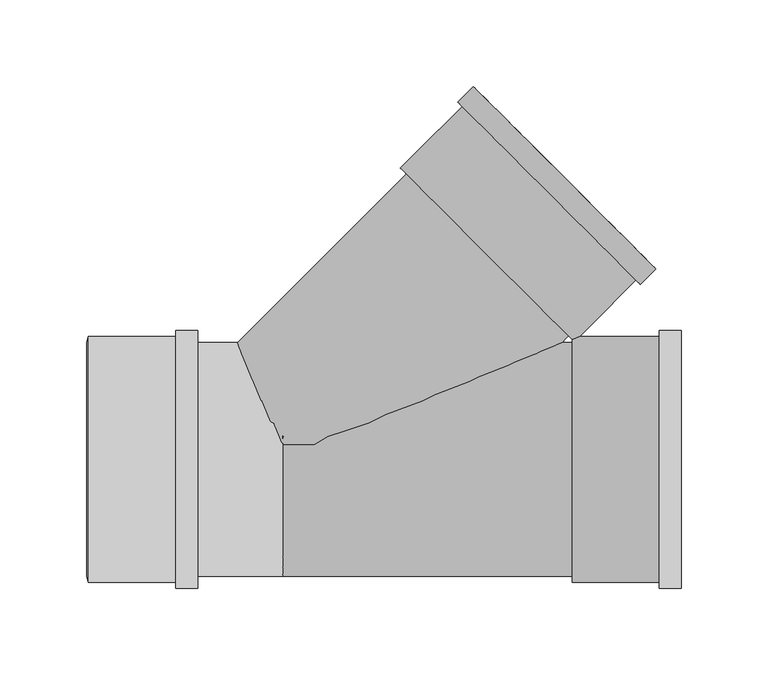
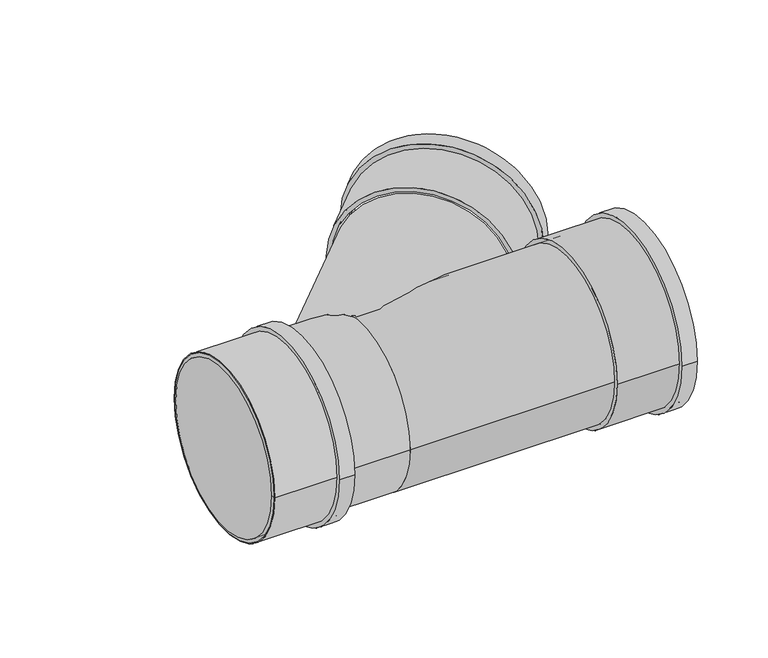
"""IFC4 building model written with IfcOpenShell, lengths in millimetres: pipe fitting geometry, Superdrain SKEA Branch : Superdrain SKEA Branch."""

import ifcopenshell
import ifcopenshell.guid

model = None  # the IFC model being written
_history = None  # IfcOwnerHistory: only IFC2X3 demands one
_inside = {}  # id of a spatial element -> (the spatial element, [elements in it])
_under = {}  # id of a project, library or spatial element -> (it, [spatial elements below it])
_declared = {}  # id of a project -> (the project, [libraries it declares])
_typed = {}  # id of a type object -> (the type object, [elements of that type])
_made_of = {}  # id of a material, layer set ... -> (it, [elements and type objects made of it])


def new_model(schema):
    """Start an empty IFC model of exactly this schema.

    Asked for "IFC4X3", IfcOpenShell would pick the latest addendum, in which some entities
    have other attributes; the version numbers below select the first issue.
    IFC2X3 requires an IfcOwnerHistory on every rooted entity: one is made here for all.
    """
    global model, _history
    if schema == "IFC4X3":
        model = ifcopenshell.file(schema_version=(4, 3, 0, 0))
    else:
        model = ifcopenshell.file(schema=schema)
    _inside.clear()
    _under.clear()
    _declared.clear()
    _typed.clear()
    _made_of.clear()
    _history = None
    if model.schema == "IFC2X3":
        org = make("IfcOrganization", Name="unknown")
        user = make(
            "IfcPersonAndOrganization",
            ThePerson=make("IfcPerson", FamilyName="unknown"),
            TheOrganization=org,
        )
        app = make(
            "IfcApplication",
            ApplicationDeveloper=org,
            Version="unknown",
            ApplicationFullName="unknown",
            ApplicationIdentifier="unknown",
        )
        _history = make(
            "IfcOwnerHistory",
            OwningUser=user,
            OwningApplication=app,
            ChangeAction="ADDED",
            CreationDate=0,
        )
    return model


def make(cls, **values):
    """One entity of the class cls with the attributes given. An attribute that is None is left unset."""
    return model.create_entity(
        cls, **{name: value for name, value in values.items() if value is not None}
    )


def rooted(cls, **values):
    """An entity with a GlobalId (a new one), such as an element, a storey or a relation."""
    return make(cls, GlobalId=ifcopenshell.guid.new(), OwnerHistory=_history, **values)


def si_unit(unit_type, name, prefix=None):
    """IfcSIUnit, for example si_unit("LENGTHUNIT", "METRE", prefix="MILLI")."""
    return make("IfcSIUnit", UnitType=unit_type, Prefix=prefix, Name=name)


def assignment(units):
    """IfcUnitAssignment: the units of a project."""
    return None if units is None else make("IfcUnitAssignment", Units=units)


def point(xyz):
    """IfcCartesianPoint."""
    return None if xyz is None else make("IfcCartesianPoint", Coordinates=xyz)


def direction(xyz):
    """IfcDirection."""
    return None if xyz is None else make("IfcDirection", DirectionRatios=xyz)


def frame(location, z_axis=None, x_axis=None):
    """IfcAxis2Placement3D, a coordinate frame: its origin and axes. An axis left out is left unset."""
    return make(
        "IfcAxis2Placement3D",
        Location=point(location),
        Axis=direction(z_axis),
        RefDirection=direction(x_axis),
    )


def frame_2d(location, x_axis=None):
    """IfcAxis2Placement2D, a coordinate frame in the plane: its origin and x axis."""
    return make(
        "IfcAxis2Placement2D", Location=point(location), RefDirection=direction(x_axis)
    )


def origin():
    """The frame at (0, 0, 0) with its axes left unset."""
    return frame((0.0, 0.0, 0.0))


def origin_2d():
    """The frame at (0, 0) in the plane with its x axis left unset."""
    return frame_2d((0.0, 0.0))


def place(relative_to, where):
    """IfcLocalPlacement: puts the frame where relative to a parent placement (None: the world)."""
    return make(
        "IfcLocalPlacement", PlacementRelTo=relative_to, RelativePlacement=where
    )


def context(
    kind, dimensions, precision=None, world=None, true_north=None, identifier=None
):
    """IfcGeometricRepresentationContext, for example the 3D "Model" context."""
    return make(
        "IfcGeometricRepresentationContext",
        ContextIdentifier=identifier,
        ContextType=kind,
        CoordinateSpaceDimension=dimensions,
        Precision=precision,
        WorldCoordinateSystem=world,
        TrueNorth=true_north,
    )


def project(units=None, contexts=None):
    """IfcProject with its units and contexts."""
    return rooted(
        "IfcProject",
        Name="project",
        RepresentationContexts=contexts,
        UnitsInContext=assignment(units),
    )


def spatial(cls, under=None, at=None, **own):
    """A site, building, storey or space (cls), placed at a placement, below another one or the project."""
    s = rooted(cls, ObjectPlacement=at, **own)
    if under is not None:
        _under.setdefault(under.id(), (under, []))[1].append(s)
    return s


def polyline(points):
    """IfcPolyline through the points."""
    return make("IfcPolyline", Points=[point(p) for p in points])


def circle_curve(where, radius):
    """IfcCircle in the frame where."""
    return make("IfcCircle", Position=where, Radius=radius)


def ellipse_curve(where, semi_axis1, semi_axis2):
    """IfcEllipse in the frame where."""
    return make(
        "IfcEllipse", Position=where, SemiAxis1=semi_axis1, SemiAxis2=semi_axis2
    )


def trimmed(basis, trim1, trim2, sense, master):
    """IfcTrimmedCurve: the piece of a basis curve between two trims."""
    return make(
        "IfcTrimmedCurve",
        BasisCurve=basis,
        Trim1=trim1,
        Trim2=trim2,
        SenseAgreement=sense,
        MasterRepresentation=master,
    )


def segment(curve, same_sense, transition):
    """IfcCompositeCurveSegment."""
    return make(
        "IfcCompositeCurveSegment",
        Transition=transition,
        SameSense=same_sense,
        ParentCurve=curve,
    )


def composite_curve(segments, self_intersect=None):
    """IfcCompositeCurve: segments joined end to end."""
    return make("IfcCompositeCurve", Segments=segments, SelfIntersect=self_intersect)


def outline(outer, holes=None, kind="AREA"):
    """IfcArbitraryClosedProfileDef: a profile drawn as a closed curve; with holes, ...WithVoids."""
    if holes is None:
        return make("IfcArbitraryClosedProfileDef", ProfileType=kind, OuterCurve=outer)
    return make(
        "IfcArbitraryProfileDefWithVoids",
        ProfileType=kind,
        OuterCurve=outer,
        InnerCurves=holes,
    )


def extrude(swept, where, along, depth):
    """IfcExtrudedAreaSolid: the profile swept, set in the frame where, extruded along a direction by depth."""
    return make(
        "IfcExtrudedAreaSolid",
        SweptArea=swept,
        Position=where,
        ExtrudedDirection=direction(along),
        Depth=depth,
    )


def shape(context_of_items, identifier, shape_type, items):
    """IfcShapeRepresentation: the items that make up one representation, for example the "Body"."""
    return make(
        "IfcShapeRepresentation",
        ContextOfItems=context_of_items,
        RepresentationIdentifier=identifier,
        RepresentationType=shape_type,
        Items=items,
    )


def source(mapping_origin, context_of_items, identifier, shape_type, items):
    """IfcRepresentationMap: a shape defined once, which mapped items show again and again."""
    return make(
        "IfcRepresentationMap",
        MappingOrigin=mapping_origin,
        MappedRepresentation=shape(context_of_items, identifier, shape_type, items),
    )


def transform(
    local_origin,
    x_axis=None,
    y_axis=None,
    z_axis=None,
    scale=None,
    scale2=None,
    scale3=None,
    uniform=True,
):
    """IfcCartesianTransformationOperator3D, or its non-uniform kind. x_axis, y_axis, z_axis: its Axis1, 2, 3."""
    if uniform:
        return make(
            "IfcCartesianTransformationOperator3D",
            Axis1=direction(x_axis),
            Axis2=direction(y_axis),
            LocalOrigin=point(local_origin),
            Scale=scale,
            Axis3=direction(z_axis),
        )
    return make(
        "IfcCartesianTransformationOperator3DnonUniform",
        Axis1=direction(x_axis),
        Axis2=direction(y_axis),
        LocalOrigin=point(local_origin),
        Scale=scale,
        Axis3=direction(z_axis),
        Scale2=scale2,
        Scale3=scale3,
    )


def mapped(mapping_source, mapping_target):
    """IfcMappedItem: shows the shape of a source again, moved by a transform."""
    return make(
        "IfcMappedItem", MappingSource=mapping_source, MappingTarget=mapping_target
    )


def made_of(thing, what):
    """Note that an element or type object is made of a material, layer set ...; save() writes the relation."""
    if what is not None:
        _made_of.setdefault(what.id(), (what, []))[1].append(thing)
    return thing


def element(
    cls,
    number,
    at=None,
    inside=None,
    cuts=None,
    type_object=None,
    material=None,
    context=None,
    identifier="Body",
    shape_type=None,
    held_by="IfcProductDefinitionShape",
    body=None,
    shapes=None,
    **own,
):
    """One element of the class cls, such as IfcWall. Its Tag is "e" and its number.

    at: its placement. inside: the storey or other place that contains it. cuts: it is an
    opening in that element (IfcRelVoidsElement). A single representation is given by context,
    identifier, shape_type and body (its items); several are given by shapes. held_by: the class
    of the entity that holds the representations. save() writes the other relations.
    """
    e = rooted(cls, Tag="e%d" % number, ObjectPlacement=at, **own)
    if body is not None:
        shapes = [shape(context, identifier, shape_type, body)]
    if shapes is not None:
        e.Representation = make(held_by, Representations=shapes)
    if inside is not None:
        _inside.setdefault(inside.id(), (inside, []))[1].append(e)
    if cuts is not None:
        rooted(
            "IfcRelVoidsElement", RelatingBuildingElement=cuts, RelatedOpeningElement=e
        )
    if type_object is not None:
        _typed.setdefault(type_object.id(), (type_object, []))[1].append(e)
    return made_of(e, material)


def aggregate(whole, parts):
    """IfcRelAggregates: a whole, such as a stair, and the parts it consists of."""
    return rooted("IfcRelAggregates", RelatingObject=whole, RelatedObjects=parts)


def save(model, path):
    """Write the relations noted so far, then the file.

    IfcRelAggregates (storeys below a building ...), IfcRelContainedInSpatialStructure (elements
    in a storey), IfcRelDefinesByType, IfcRelAssociatesMaterial and IfcRelDeclares: one each for
    every whole, place, type object, material and project.
    """
    for whole, parts in _under.values():
        aggregate(whole, parts)
    for where, things in _inside.values():
        rooted(
            "IfcRelContainedInSpatialStructure",
            RelatedElements=things,
            RelatingStructure=where,
        )
    for kind, things in _typed.values():
        rooted("IfcRelDefinesByType", RelatedObjects=things, RelatingType=kind)
    for what, things in _made_of.values():
        rooted("IfcRelAssociatesMaterial", RelatedObjects=things, RelatingMaterial=what)
    for by, libraries in _declared.values():
        rooted("IfcRelDeclares", RelatingContext=by, RelatedDefinitions=libraries)
    model.write(path)


def plane_surface(at):
    """IfcPlane: the flat surface through the origin of the frame at, square to its z axis."""
    return make("IfcPlane", Position=at)


def cylinder_surface(at, radius):
    """IfcCylindricalSurface: all points at the distance radius from the z axis of the frame at."""
    return make("IfcCylindricalSurface", Position=at, Radius=radius)


def revolved_surface(curve, axis_point, axis_direction):
    """IfcSurfaceOfRevolution: the curve turned about the line through axis_point along axis_direction."""
    return make(
        "IfcSurfaceOfRevolution",
        SweptCurve=make("IfcArbitraryOpenProfileDef", ProfileType="CURVE", Curve=curve),
        AxisPosition=make("IfcAxis1Placement", Location=point(axis_point), Axis=direction(axis_direction)),
    )


def advanced_brep(points, edges, surfaces, faces):
    """IfcAdvancedBrep: a solid bounded by faces that lie on surfaces and meet in shared edges.

    An edge is (start, end): straight between two places in points (the first is 0);
    or (start, end, curve); or (start, end, curve, False) where it runs against its curve.
    A face is (place in surfaces, loops), or (place, loops, False) where it looks against
    its surface's normal. A loop lists edges by number (the first is 1), with a minus sign
    where the edge is run from its end to its start. The first loop is the outer one.
    """
    corners = [point(p) for p in points]
    vertices = [make("IfcVertexPoint", VertexGeometry=c) for c in corners]
    made = []
    for start, end, *more in edges:
        made.append(
            make(
                "IfcEdgeCurve",
                EdgeStart=vertices[start],
                EdgeEnd=vertices[end],
                EdgeGeometry=more[0] if more else make("IfcPolyline", Points=[corners[start], corners[end]]),
                SameSense=more[1] if len(more) > 1 else True,
            )
        )
    hull = []
    for where, loops, *sense in faces:
        bounds = []
        for j, loop in enumerate(loops):
            ring = [make("IfcOrientedEdge", EdgeElement=made[abs(k) - 1], Orientation=k > 0) for k in loop]
            bounds.append(
                make(
                    "IfcFaceOuterBound" if j == 0 else "IfcFaceBound",
                    Bound=make("IfcEdgeLoop", EdgeList=ring),
                    Orientation=True,
                )
            )
        hull.append(make("IfcAdvancedFace", Bounds=bounds, FaceSurface=surfaces[where], SameSense=sense[0] if sense else True))
    return make("IfcAdvancedBrep", Outer=make("IfcClosedShell", CfsFaces=hull))


def pipe_fitting_3333814c(model_context):
    return source(origin(), model_context, "Body", "SolidModel", [
        extrude(outline(composite_curve([segment(trimmed(circle_curve(origin_2d(), 70.875), [point((70.875, 0.0))], [point((-70.875, 0.0))], False, "CARTESIAN"), True, "CONTINUOUS"), segment(trimmed(circle_curve(origin_2d(), 70.875), [point((-70.875, 0.0))], [point((70.875, 0.0))], False, "CARTESIAN"), True, "CONTINUOUS")], self_intersect=False), holes=[composite_curve([segment(trimmed(circle_curve(origin_2d(), 67.5), [point((67.5, 0.0))], [point((-67.5, 0.0))], True, "CARTESIAN"), True, "CONTINUOUS"), segment(trimmed(circle_curve(origin_2d(), 67.5), [point((-67.5, 0.0))], [point((67.5, 0.0))], True, "CARTESIAN"), True, "CONTINUOUS")], self_intersect=False)]), frame((-112.1, 0.0, 0.0), z_axis=(1.0, 0.0, 0.0), x_axis=(0.0, 1.0, 0.0)), (0.0, 0.0, 1.0), 63.0),
        extrude(outline(composite_curve([segment(trimmed(circle_curve(origin_2d(), 74.41875), [point((74.41875, 0.0))], [point((-74.41875, 0.0))], False, "CARTESIAN"), True, "CONTINUOUS"), segment(trimmed(circle_curve(origin_2d(), 74.41875), [point((-74.41875, 0.0))], [point((74.41875, 0.0))], False, "CARTESIAN"), True, "CONTINUOUS")], self_intersect=False), holes=[composite_curve([segment(trimmed(circle_curve(origin_2d(), 67.5), [point((67.5, 0.0))], [point((-67.5, 0.0))], True, "CARTESIAN"), True, "CONTINUOUS"), segment(trimmed(circle_curve(origin_2d(), 67.5), [point((-67.5, 0.0))], [point((67.5, 0.0))], True, "CARTESIAN"), True, "CONTINUOUS")], self_intersect=False)]), frame((-61.7, 0.0, 0.0), z_axis=(1.0, 0.0, 0.0), x_axis=(0.0, 1.0, 0.0)), (0.0, 0.0, 1.0), 12.6),
        advanced_brep(
        [(-113.1, 67.5, 0.0), (-113.1, -67.5, 0.0), (-112.1, 70.875, 0.0), (-112.1, -70.875, 0.0)],
        [
            (0, 1, circle_curve(frame((-113.1, 0.0, 0.0), z_axis=(-1.0, 0.0, 0.0), x_axis=(0.0, 1.0, 0.0)), 67.5)),
            (1, 0, circle_curve(frame((-113.1, 0.0, 0.0), z_axis=(-1.0, 0.0, 0.0), x_axis=(0.0, -1.0, 0.0)), 67.5)),
            (2, 3, circle_curve(frame((-112.1, 0.0, 0.0), z_axis=(1.0, 0.0, 0.0), x_axis=(0.0, -1.0, 0.0)), 70.875)),
            (3, 2, circle_curve(frame((-112.1, 0.0, 0.0), z_axis=(1.0, 0.0, 0.0), x_axis=(0.0, 1.0, 0.0)), 70.875)),
            (3, 1),
            (0, 2),
        ],
        [
            plane_surface(frame((-113.1, 0.0, 0.0), z_axis=(-1.0, 0.0, 0.0), x_axis=(0.0, 0.0, -1.0))),
            plane_surface(frame((-112.1, 0.0, 0.0), z_axis=(1.0, 0.0, 0.0), x_axis=(0.0, 0.0, -1.0))),
            revolved_surface(polyline([(-113.1, 67.5, 0.0), (-112.1, 70.875, 0.0)]), (-133.1, 0.0, 0.0), (1.0, 0.0, 0.0)),
            revolved_surface(polyline([(-113.1, -67.5, 0.0), (-112.1, -70.875, 0.0)]), (-133.1, 0.0, 0.0), (1.0, 0.0, 0.0)),
        ],
        [
            (0, [[1, 2]]),
            (1, [[3, 4]]),
            (2, [[-4, 5, -1, 6]]),
            (3, [[-3, -6, -2, -5]]),
        ],
    ),
        advanced_brep(
        [(164.7912354, 71.2410082, 0.0), (71.2410082, 164.7912354, 0.0), (-27.4002272, 66.15, 0.0), (0.0, 0.0, 66.15), (159.7002272, 66.15, 0.0), (0.0, 0.0, -66.15)],
        [
            (0, 1, circle_curve(frame((118.0161218, 118.0161218, 0.0), z_axis=(0.7071067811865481, 0.7071067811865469, 0.0), x_axis=(-0.7071067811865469, 0.7071067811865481, 0.0)), 66.15)),
            (1, 0, circle_curve(frame((118.0161218, 118.0161218, 0.0), z_axis=(0.7071067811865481, 0.7071067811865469, 0.0), x_axis=(-0.7071067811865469, 0.7071067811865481, 0.0)), 66.15)),
            (1, 2),
            (2, 3, ellipse_curve(frame((0.0, 0.0, 0.0), z_axis=(0.923879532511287, 0.3826834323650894, 0.0), x_axis=(0.38268343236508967, -0.9238795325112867, 0.0)), 71.600244, 66.15)),
            (3, 4, ellipse_curve(frame((0.0, 0.0, 0.0), z_axis=(-0.3826834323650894, 0.923879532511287, 0.0), x_axis=(-0.923879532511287, -0.38268343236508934, 0.0)), 172.8582803, 66.15)),
            (4, 0),
            (4, 5, ellipse_curve(frame((0.0, 0.0, 0.0), z_axis=(-0.3826834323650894, 0.923879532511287, 0.0), x_axis=(-0.923879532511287, -0.38268343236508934, 0.0)), 172.8582803, 66.15)),
            (5, 2, ellipse_curve(frame((0.0, 0.0, 0.0), z_axis=(0.923879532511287, 0.3826834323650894, 0.0), x_axis=(0.38268343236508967, -0.9238795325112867, 0.0)), 71.600244, 66.15)),
            (2, 4),
        ],
        [
            plane_surface(frame((118.0161218, 118.0161218, 0.0), z_axis=(0.7071067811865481, 0.7071067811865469, 0.0), x_axis=(0.0, 0.0, 1.0))),
            cylinder_surface(frame((0.0, 0.0, 0.0), z_axis=(-0.7071067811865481, -0.7071067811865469, 0.0), x_axis=(-0.7071067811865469, 0.7071067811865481, 0.0)), 66.15),
            revolved_surface(polyline([(-159.700227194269, 66.15, 0.0), (159.7002272, 66.15, 0.0)]), (-117.1, 0.0, 0.0), (-1.0, 0.0, 0.0)),
        ],
        [
            (0, [[1, 2]]),
            (1, [[-2, 3, 4, 5, 6]]),
            (1, [[-1, -6, 7, 8, -3]]),
            (2, [[9, -5, -4]]),
            (2, [[-9, -8, -7]]),
        ],
    ),
        advanced_brep(
        [(166.9, -70.875, 0.0), (166.9, 70.875, 0.0), (229.9, -70.875, 0.0), (229.9, 70.875, 0.0), (229.9, -67.5, 0.0), (229.9, 67.5, 0.0), (167.9, -67.5, 0.0), (167.9, 67.5, 0.0)],
        [
            (0, 1, circle_curve(frame((166.9, 0.0, 0.0), z_axis=(-1.0, 0.0, 0.0), x_axis=(0.0, 1.0, 0.0)), 70.875)),
            (1, 0, circle_curve(frame((166.9, 0.0, 0.0), z_axis=(-1.0, 0.0, 0.0), x_axis=(0.0, 1.0, 0.0)), 70.875)),
            (2, 3, circle_curve(frame((229.9, 0.0, 0.0), z_axis=(1.0, 0.0, 0.0), x_axis=(0.0, 1.0, 0.0)), 70.875)),
            (3, 2, circle_curve(frame((229.9, 0.0, 0.0), z_axis=(1.0, 0.0, 0.0), x_axis=(0.0, 1.0, 0.0)), 70.875)),
            (4, 5, circle_curve(frame((229.9, 0.0, 0.0), z_axis=(-1.0, 0.0, 0.0), x_axis=(0.0, 1.0, 0.0)), 67.5)),
            (5, 4, circle_curve(frame((229.9, 0.0, 0.0), z_axis=(-1.0, 0.0, 0.0), x_axis=(0.0, 1.0, 0.0)), 67.5)),
            (0, 2),
            (3, 1),
            (6, 7, circle_curve(frame((167.9, 0.0, 0.0), z_axis=(-1.0, 0.0, 0.0), x_axis=(0.0, 1.0, 0.0)), 67.5)),
            (7, 5),
            (4, 6),
            (7, 6, circle_curve(frame((167.9, 0.0, 0.0), z_axis=(-1.0, 0.0, 0.0), x_axis=(0.0, 1.0, 0.0)), 67.5)),
        ],
        [
            plane_surface(frame((166.9, 0.0, 0.0), z_axis=(-1.0, 0.0, 0.0), x_axis=(0.0, 0.0, 1.0))),
            plane_surface(frame((229.9, 0.0, 0.0), z_axis=(1.0, 0.0, 0.0), x_axis=(0.0, 0.0, 1.0))),
            cylinder_surface(frame((166.9, 0.0, 0.0), z_axis=(-1.0, 0.0, 0.0), x_axis=(0.0, 1.0, 0.0)), 70.875),
            revolved_surface(polyline([(167.9, 67.5, 0.0), (229.9, 67.5, 0.0)]), (167.9, 0.0, 0.0), (-1.0, 0.0, 0.0)),
            plane_surface(frame((167.9, 0.0, 0.0), z_axis=(1.0, 0.0, 0.0), x_axis=(0.0, 0.0, 1.0))),
        ],
        [
            (0, [[1, 2]]),
            (1, [[3, 4], [5, 6]]),
            (2, [[-1, 7, -4, 8]]),
            (2, [[-2, -8, -3, -7]]),
            (3, [[9, 10, -5, 11]]),
            (3, [[12, -11, -6, -10]]),
            (4, [[-12, -9]]),
        ],
    ),
        extrude(outline(composite_curve([segment(trimmed(circle_curve(origin_2d(), 74.41875), [point((74.41875, 0.0))], [point((-74.41875, 0.0))], False, "CARTESIAN"), True, "CONTINUOUS"), segment(trimmed(circle_curve(origin_2d(), 74.41875), [point((-74.41875, 0.0))], [point((74.41875, 0.0))], False, "CARTESIAN"), True, "CONTINUOUS")], self_intersect=False), holes=[composite_curve([segment(trimmed(circle_curve(origin_2d(), 67.5), [point((67.5, 0.0))], [point((-67.5, 0.0))], True, "CARTESIAN"), True, "CONTINUOUS"), segment(trimmed(circle_curve(origin_2d(), 67.5), [point((-67.5, 0.0))], [point((67.5, 0.0))], True, "CARTESIAN"), True, "CONTINUOUS")], self_intersect=False)]), frame((217.3, 0.0, 0.0), z_axis=(1.0, 0.0, 0.0), x_axis=(0.0, 1.0, 0.0)), (0.0, 0.0, 1.0), 12.6),
        extrude(outline(composite_curve([segment(trimmed(circle_curve(origin_2d(), 67.5), [point((67.5, 0.0))], [point((-67.5, 0.0))], False, "CARTESIAN"), True, "CONTINUOUS"), segment(trimmed(circle_curve(origin_2d(), 67.5), [point((-67.5, 0.0))], [point((67.5, 0.0))], False, "CARTESIAN"), True, "CONTINUOUS")], self_intersect=False)), frame((-112.1, 0.0, 0.0), z_axis=(1.0, 0.0, 0.0), x_axis=(0.0, 1.0, 0.0)), (0.0, 0.0, 1.0), 112.1),
        extrude(outline(composite_curve([segment(trimmed(circle_curve(origin_2d(), 67.5), [point((-67.5, 0.0))], [point((67.5, 0.0))], False, "CARTESIAN"), True, "CONTINUOUS"), segment(trimmed(circle_curve(origin_2d(), 67.5), [point((67.5, 0.0))], [point((-67.5, 0.0))], False, "CARTESIAN"), True, "CONTINUOUS")], self_intersect=False)), frame((0.0, 0.0, 0.0), z_axis=(1.0, 0.0, 0.0), x_axis=(0.0, 1.0, 0.0)), (0.0, 0.0, 1.0), 166.9),
        extrude(outline(composite_curve([segment(trimmed(circle_curve(origin_2d(), 74.41875), [point((0.0, 74.41875))], [point((0.0, -74.41875))], False, "CARTESIAN"), True, "CONTINUOUS"), segment(trimmed(circle_curve(origin_2d(), 74.41875), [point((0.0, -74.41875))], [point((0.0, 74.41875))], False, "CARTESIAN"), True, "CONTINUOUS")], self_intersect=False), holes=[composite_curve([segment(trimmed(circle_curve(origin_2d(), 67.5), [point((0.0, 67.5))], [point((0.0, -67.5))], True, "CARTESIAN"), True, "CONTINUOUS"), segment(trimmed(circle_curve(origin_2d(), 67.5), [point((0.0, -67.5))], [point((0.0, 67.5))], True, "CARTESIAN"), True, "CONTINUOUS")], self_intersect=False)]), frame((153.6543036, 153.6543036, 0.0), z_axis=(0.7071067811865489, 0.7071067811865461, 0.0), x_axis=(0.0, 0.0, 1.0)), (0.0, 0.0, 1.0), 12.6),
        extrude(outline(composite_curve([segment(trimmed(circle_curve(origin_2d(), 70.875), [point((0.0, 70.875))], [point((0.0, -70.875))], False, "CARTESIAN"), True, "CONTINUOUS"), segment(trimmed(circle_curve(origin_2d(), 70.875), [point((0.0, -70.875))], [point((0.0, 70.875))], False, "CARTESIAN"), True, "CONTINUOUS")], self_intersect=False), holes=[composite_curve([segment(trimmed(circle_curve(origin_2d(), 67.5), [point((0.0, 67.5))], [point((0.0, -67.5))], True, "CARTESIAN"), True, "CONTINUOUS"), segment(trimmed(circle_curve(origin_2d(), 67.5), [point((0.0, -67.5))], [point((0.0, 67.5))], True, "CARTESIAN"), True, "CONTINUOUS")], self_intersect=False)]), frame((118.0161218, 118.0161218, 0.0), z_axis=(0.7071067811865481, 0.707106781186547, 0.0), x_axis=(0.0, 0.0, 1.0)), (0.0, 0.0, 1.0), 63.0),
    ])


if __name__ == "__main__":
    model = new_model("IFC4")
    model_context = context("Model", 3, world=origin())
    ifc_project = project(units=[si_unit("LENGTHUNIT", "METRE", prefix="MILLI")], contexts=[model_context])
    site = spatial("IfcSite", under=ifc_project)
    building = spatial("IfcBuilding", under=site)
    placement = place(None, origin())
    pipe_fitting_shape = pipe_fitting_3333814c(model_context)
    element("IfcPipeFitting", 1, ObjectType="Superdrain SKEA Branch : Superdrain SKEA Branch", at=placement, inside=building, context=model_context, shape_type="MappedRepresentation", body=[
        mapped(pipe_fitting_shape, transform((0.0, 0.0, 0.0), x_axis=(1.0, 0.0, 0.0), y_axis=(0.0, 1.0, 0.0), z_axis=(0.0, 0.0, 1.0))),
    ])
    save(model, "model.ifc")
